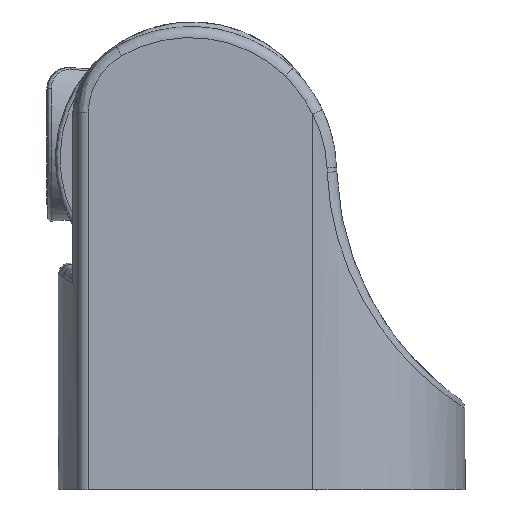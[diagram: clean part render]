
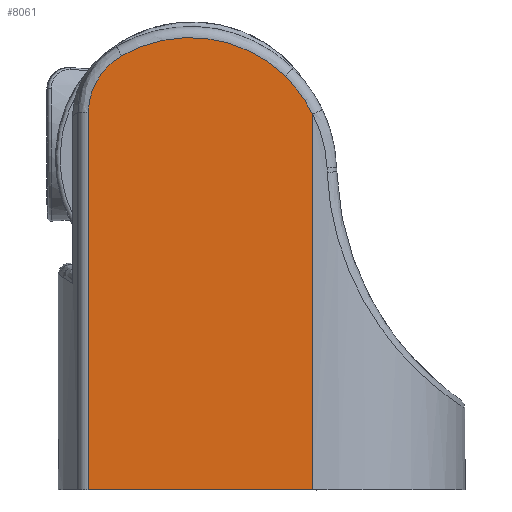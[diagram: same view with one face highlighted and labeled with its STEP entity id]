
A CAD part, left-side view. The second image highlights one B-rep face of the part: STEP entity #8061.
In plain terms, the highlighted planar face has unit normal (-1, 0.011, 0).
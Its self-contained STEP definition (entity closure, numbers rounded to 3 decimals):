
#279=B_SPLINE_CURVE_WITH_KNOTS('',3,(#13460,#13461,#13462,#13463,#13464,
#13465,#13466,#13467,#13468,#13469,#13470,#13471,#13472,#13473,#13474,#13475,
#13476,#13477,#13478,#13479,#13480,#13481,#13482,#13483,#13484,#13485,#13486,
#13487,#13488,#13489,#13490,#13491,#13492,#13493,#13494,#13495,#13496,#13497,
#13498,#13499,#13500,#13501,#13502,#13503,#13504,#13505,#13506,#13507,#13508,
#13509,#13510,#13511,#13512,#13513,#13514,#13515,#13516,#13517,#13518,#13519,
#13520,#13521,#13522,#13523,#13524,#13525,#13526,#13527,#13528,#13529),
 .UNSPECIFIED.,.F.,.F.,(4,3,3,3,3,3,3,3,3,3,3,3,3,3,3,3,3,3,3,3,3,3,3,4),
(0.,0.048,0.097,0.105,
0.154,0.167,0.233,0.259,0.325,
0.333,0.388,0.411,0.467,0.5,
0.564,0.635,0.667,0.717,0.778,
0.833,0.869,0.916,0.962,1.),
 .UNSPECIFIED.);
#641=FACE_OUTER_BOUND('',#1126,.T.);
#1126=EDGE_LOOP('',(#5476,#5477,#5478,#5479,#5480,#5481));
#1608=LINE('',#11887,#2185);
#1611=LINE('',#11902,#2188);
#1655=LINE('',#13279,#2232);
#2185=VECTOR('',#9468,30.877);
#2188=VECTOR('',#9481,51.99);
#2232=VECTOR('',#9669,51.693);
#2809=CIRCLE('',#8620,18.5);
#2810=CIRCLE('',#8622,18.734);
#3188=VERTEX_POINT('',#11877);
#3192=VERTEX_POINT('',#11885);
#3199=VERTEX_POINT('',#11901);
#3300=VERTEX_POINT('',#13272);
#3309=VERTEX_POINT('',#13454);
#3310=VERTEX_POINT('',#13458);
#4003=EDGE_CURVE('',#3188,#3192,#1608,.T.);
#4010=EDGE_CURVE('',#3199,#3188,#1611,.T.);
#4135=EDGE_CURVE('',#3192,#3300,#1655,.T.);
#4146=EDGE_CURVE('',#3309,#3300,#2809,.T.);
#4147=EDGE_CURVE('',#3310,#3309,#2810,.T.);
#4148=EDGE_CURVE('',#3199,#3310,#279,.T.);
#5476=ORIENTED_EDGE('',*,*,#4010,.T.);
#5477=ORIENTED_EDGE('',*,*,#4003,.T.);
#5478=ORIENTED_EDGE('',*,*,#4135,.T.);
#5479=ORIENTED_EDGE('',*,*,#4146,.F.);
#5480=ORIENTED_EDGE('',*,*,#4147,.F.);
#5481=ORIENTED_EDGE('',*,*,#4148,.F.);
#7854=PLANE('',#8621);
#8061=ADVANCED_FACE('',(#641),#7854,.T.);
#8620=AXIS2_PLACEMENT_3D('',#13456,#9678,#9679);
#8621=AXIS2_PLACEMENT_3D('',#13457,#9680,#9681);
#8622=AXIS2_PLACEMENT_3D('',#13459,#9682,#9683);
#9468=DIRECTION('',(-0.011,-1.,0.));
#9481=DIRECTION('',(0.,0.,-1.));
#9669=DIRECTION('',(0.,0.,1.));
#9678=DIRECTION('center_axis',(1.,-0.011,0.));
#9679=DIRECTION('ref_axis',(-0.008,-0.699,0.715));
#9680=DIRECTION('center_axis',(-1.,0.011,0.));
#9681=DIRECTION('ref_axis',(-0.011,-1.,0.));
#9682=DIRECTION('center_axis',(1.,-0.011,0.));
#9683=DIRECTION('ref_axis',(0.006,0.503,0.864));
#11877=CARTESIAN_POINT('',(-21.262,-1.125,-32.));
#11885=CARTESIAN_POINT('',(-21.6,-32.,-32.));
#11887=CARTESIAN_POINT('',(-21.262,-1.125,-32.));
#11901=CARTESIAN_POINT('',(-21.262,-1.125,19.99));
#11902=CARTESIAN_POINT('',(-21.262,-1.125,19.99));
#13272=CARTESIAN_POINT('',(-21.6,-32.,19.693));
#13279=CARTESIAN_POINT('',(-21.6,-32.,-32.));
#13454=CARTESIAN_POINT('',(-21.559,-28.23,24.965));
#13456=CARTESIAN_POINT('Origin',(-21.417,-15.301,11.734));
#13457=CARTESIAN_POINT('Origin',(-21.25,0.,-32.));
#13458=CARTESIAN_POINT('',(-21.313,-5.716,27.759));
#13459=CARTESIAN_POINT('Origin',(-21.416,-15.137,11.566));
#13460=CARTESIAN_POINT('Ctrl Pts',(-21.262,-1.125,
19.99));
#13461=CARTESIAN_POINT('Ctrl Pts',(-21.262,-1.125,
20.136));
#13462=CARTESIAN_POINT('Ctrl Pts',(-21.262,-1.129,20.282));
#13463=CARTESIAN_POINT('Ctrl Pts',(-21.262,-1.137,20.427));
#13464=CARTESIAN_POINT('Ctrl Pts',(-21.263,-1.144,
20.573));
#13465=CARTESIAN_POINT('Ctrl Pts',(-21.263,-1.156,20.719));
#13466=CARTESIAN_POINT('Ctrl Pts',(-21.263,-1.171,20.864));
#13467=CARTESIAN_POINT('Ctrl Pts',(-21.263,-1.174,
20.89));
#13468=CARTESIAN_POINT('Ctrl Pts',(-21.263,-1.177,
20.916));
#13469=CARTESIAN_POINT('Ctrl Pts',(-21.263,-1.18,
20.942));
#13470=CARTESIAN_POINT('Ctrl Pts',(-21.263,-1.196,
21.088));
#13471=CARTESIAN_POINT('Ctrl Pts',(-21.263,-1.217,
21.234));
#13472=CARTESIAN_POINT('Ctrl Pts',(-21.264,-1.241,21.379));
#13473=CARTESIAN_POINT('Ctrl Pts',(-21.264,-1.247,
21.418));
#13474=CARTESIAN_POINT('Ctrl Pts',(-21.264,-1.254,
21.456));
#13475=CARTESIAN_POINT('Ctrl Pts',(-21.264,-1.261,21.495));
#13476=CARTESIAN_POINT('Ctrl Pts',(-21.264,-1.297,
21.693));
#13477=CARTESIAN_POINT('Ctrl Pts',(-21.265,-1.339,
21.891));
#13478=CARTESIAN_POINT('Ctrl Pts',(-21.265,-1.389,
22.088));
#13479=CARTESIAN_POINT('Ctrl Pts',(-21.265,-1.409,
22.164));
#13480=CARTESIAN_POINT('Ctrl Pts',(-21.266,-1.429,
22.239));
#13481=CARTESIAN_POINT('Ctrl Pts',(-21.266,-1.45,
22.314));
#13482=CARTESIAN_POINT('Ctrl Pts',(-21.266,-1.505,22.509));
#13483=CARTESIAN_POINT('Ctrl Pts',(-21.267,-1.567,
22.703));
#13484=CARTESIAN_POINT('Ctrl Pts',(-21.268,-1.636,
22.896));
#13485=CARTESIAN_POINT('Ctrl Pts',(-21.268,-1.645,
22.921));
#13486=CARTESIAN_POINT('Ctrl Pts',(-21.268,-1.654,
22.947));
#13487=CARTESIAN_POINT('Ctrl Pts',(-21.268,-1.663,22.972));
#13488=CARTESIAN_POINT('Ctrl Pts',(-21.269,-1.723,
23.133));
#13489=CARTESIAN_POINT('Ctrl Pts',(-21.27,-1.787,
23.293));
#13490=CARTESIAN_POINT('Ctrl Pts',(-21.27,-1.855,
23.451));
#13491=CARTESIAN_POINT('Ctrl Pts',(-21.271,-1.884,
23.517));
#13492=CARTESIAN_POINT('Ctrl Pts',(-21.271,-1.913,
23.582));
#13493=CARTESIAN_POINT('Ctrl Pts',(-21.271,-1.943,
23.647));
#13494=CARTESIAN_POINT('Ctrl Pts',(-21.272,-2.016,
23.805));
#13495=CARTESIAN_POINT('Ctrl Pts',(-21.273,-2.094,
23.961));
#13496=CARTESIAN_POINT('Ctrl Pts',(-21.274,-2.177,
24.116));
#13497=CARTESIAN_POINT('Ctrl Pts',(-21.274,-2.227,
24.208));
#13498=CARTESIAN_POINT('Ctrl Pts',(-21.275,-2.278,
24.3));
#13499=CARTESIAN_POINT('Ctrl Pts',(-21.275,-2.331,
24.391));
#13500=CARTESIAN_POINT('Ctrl Pts',(-21.277,-2.432,
24.565));
#13501=CARTESIAN_POINT('Ctrl Pts',(-21.278,-2.539,
24.736));
#13502=CARTESIAN_POINT('Ctrl Pts',(-21.279,-2.653,24.904));
#13503=CARTESIAN_POINT('Ctrl Pts',(-21.28,-2.779,
25.091));
#13504=CARTESIAN_POINT('Ctrl Pts',(-21.282,-2.913,25.273));
#13505=CARTESIAN_POINT('Ctrl Pts',(-21.283,-3.054,
25.452));
#13506=CARTESIAN_POINT('Ctrl Pts',(-21.284,-3.117,
25.531));
#13507=CARTESIAN_POINT('Ctrl Pts',(-21.285,-3.181,
25.61));
#13508=CARTESIAN_POINT('Ctrl Pts',(-21.286,-3.247,
25.688));
#13509=CARTESIAN_POINT('Ctrl Pts',(-21.287,-3.35,
25.81));
#13510=CARTESIAN_POINT('Ctrl Pts',(-21.288,-3.456,
25.929));
#13511=CARTESIAN_POINT('Ctrl Pts',(-21.289,-3.566,
26.046));
#13512=CARTESIAN_POINT('Ctrl Pts',(-21.29,-3.701,26.19));
#13513=CARTESIAN_POINT('Ctrl Pts',(-21.292,-3.841,
26.33));
#13514=CARTESIAN_POINT('Ctrl Pts',(-21.294,-3.985,26.466));
#13515=CARTESIAN_POINT('Ctrl Pts',(-21.295,-4.115,
26.588));
#13516=CARTESIAN_POINT('Ctrl Pts',(-21.296,-4.249,
26.707));
#13517=CARTESIAN_POINT('Ctrl Pts',(-21.298,-4.386,26.823));
#13518=CARTESIAN_POINT('Ctrl Pts',(-21.299,-4.475,
26.898));
#13519=CARTESIAN_POINT('Ctrl Pts',(-21.3,-4.566,
26.971));
#13520=CARTESIAN_POINT('Ctrl Pts',(-21.301,-4.658,27.043));
#13521=CARTESIAN_POINT('Ctrl Pts',(-21.302,-4.777,
27.135));
#13522=CARTESIAN_POINT('Ctrl Pts',(-21.304,-4.899,
27.225));
#13523=CARTESIAN_POINT('Ctrl Pts',(-21.305,-5.023,
27.312));
#13524=CARTESIAN_POINT('Ctrl Pts',(-21.306,-5.146,
27.399));
#13525=CARTESIAN_POINT('Ctrl Pts',(-21.308,-5.271,
27.483));
#13526=CARTESIAN_POINT('Ctrl Pts',(-21.309,-5.399,
27.564));
#13527=CARTESIAN_POINT('Ctrl Pts',(-21.31,-5.503,
27.631));
#13528=CARTESIAN_POINT('Ctrl Pts',(-21.311,-5.609,
27.695));
#13529=CARTESIAN_POINT('Ctrl Pts',(-21.313,-5.716,
27.759));
